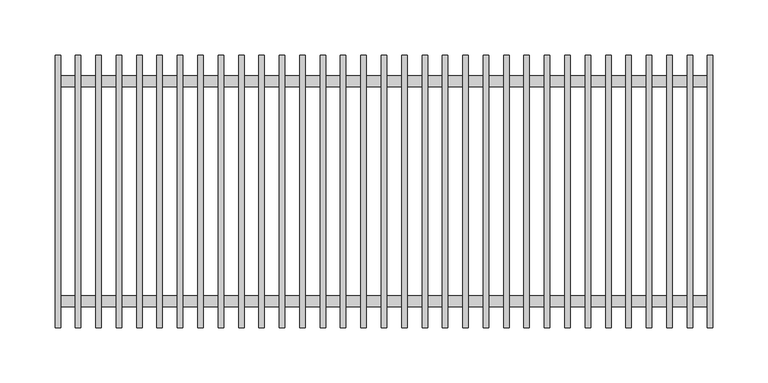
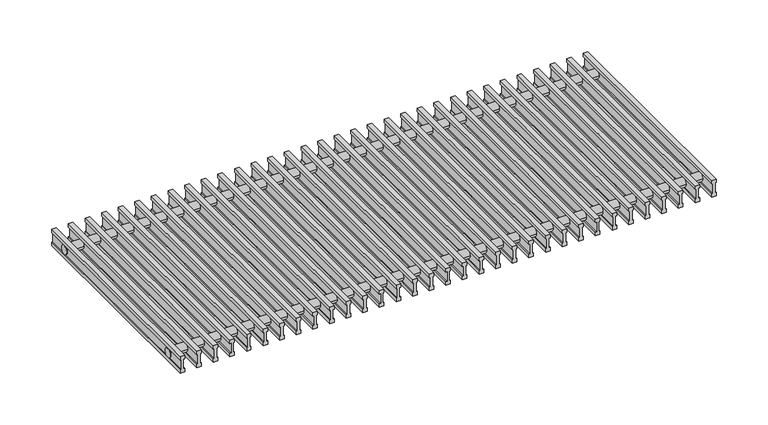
"""IFC4 building model written with IfcOpenShell, lengths in millimetres: proxy geometry, ♦ : РРА_Рулонная алюминиевая/ Белый RAL 9016."""

from ifc_helpers import new_model, si_unit, point, frame, frame_2d, origin, place, context, project, spatial, polyline, circle_curve, trimmed, segment, composite_curve, outline, extrude, source, transform, mapped, element, save


def mechanical_equipment_720d89d8(model_context):
    return source(origin(), model_context, "Body", "SweptSolid", [
        extrude(outline(polyline([(0.0, 580.28125), (0.0, 575.28125), (-3.86, 575.28125), (-3.86, 576.53125), (-15.44, 576.53125), (-15.44, 575.28125), (-19.3, 575.28125), (-19.3, 580.28125), (-15.44, 580.28125), (-15.44, 579.03125), (-3.86, 579.03125), (-3.86, 580.28125), (0.0, 580.28125)])), frame((0.0, -123.8, 0.0), z_axis=(0.0, 1.0, 0.0), x_axis=(0.0, 0.0, 1.0)), (0.0, 0.0, 1.0), 247.6),
        extrude(outline(polyline([(0.0, 561.7625), (0.0, 556.7625), (-3.86, 556.7625), (-3.86, 558.0125), (-15.44, 558.0125), (-15.44, 556.7625), (-19.3, 556.7625), (-19.3, 561.7625), (-15.44, 561.7625), (-15.44, 560.5125), (-3.86, 560.5125), (-3.86, 561.7625), (0.0, 561.7625)])), frame((0.0, -123.8, 0.0), z_axis=(0.0, 1.0, 0.0), x_axis=(0.0, 0.0, 1.0)), (0.0, 0.0, 1.0), 247.6),
        extrude(outline(polyline([(0.0, 543.24375), (0.0, 538.24375), (-3.86, 538.24375), (-3.86, 539.49375), (-15.44, 539.49375), (-15.44, 538.24375), (-19.3, 538.24375), (-19.3, 543.24375), (-15.44, 543.24375), (-15.44, 541.99375), (-3.86, 541.99375), (-3.86, 543.24375), (0.0, 543.24375)])), frame((0.0, -123.8, 0.0), z_axis=(0.0, 1.0, 0.0), x_axis=(0.0, 0.0, 1.0)), (0.0, 0.0, 1.0), 247.6),
        extrude(outline(polyline([(0.0, 524.725), (0.0, 519.725), (-3.86, 519.725), (-3.86, 520.975), (-15.44, 520.975), (-15.44, 519.725), (-19.3, 519.725), (-19.3, 524.725), (-15.44, 524.725), (-15.44, 523.475), (-3.86, 523.475), (-3.86, 524.725), (0.0, 524.725)])), frame((0.0, -123.8, 0.0), z_axis=(0.0, 1.0, 0.0), x_axis=(0.0, 0.0, 1.0)), (0.0, 0.0, 1.0), 247.6),
        extrude(outline(polyline([(0.0, 506.20625), (0.0, 501.20625), (-3.86, 501.20625), (-3.86, 502.45625), (-15.44, 502.45625), (-15.44, 501.20625), (-19.3, 501.20625), (-19.3, 506.20625), (-15.44, 506.20625), (-15.44, 504.95625), (-3.86, 504.95625), (-3.86, 506.20625), (0.0, 506.20625)])), frame((0.0, -123.8, 0.0), z_axis=(0.0, 1.0, 0.0), x_axis=(0.0, 0.0, 1.0)), (0.0, 0.0, 1.0), 247.6),
        extrude(outline(polyline([(0.0, 487.6875), (0.0, 482.6875), (-3.86, 482.6875), (-3.86, 483.9375), (-15.44, 483.9375), (-15.44, 482.6875), (-19.3, 482.6875), (-19.3, 487.6875), (-15.44, 487.6875), (-15.44, 486.4375), (-3.86, 486.4375), (-3.86, 487.6875), (0.0, 487.6875)])), frame((0.0, -123.8, 0.0), z_axis=(0.0, 1.0, 0.0), x_axis=(0.0, 0.0, 1.0)), (0.0, 0.0, 1.0), 247.6),
        extrude(outline(polyline([(0.0, 469.16875), (0.0, 464.16875), (-3.86, 464.16875), (-3.86, 465.41875), (-15.44, 465.41875), (-15.44, 464.16875), (-19.3, 464.16875), (-19.3, 469.16875), (-15.44, 469.16875), (-15.44, 467.91875), (-3.86, 467.91875), (-3.86, 469.16875), (0.0, 469.16875)])), frame((0.0, -123.8, 0.0), z_axis=(0.0, 1.0, 0.0), x_axis=(0.0, 0.0, 1.0)), (0.0, 0.0, 1.0), 247.6),
        extrude(outline(polyline([(0.0, 450.65), (0.0, 445.65), (-3.86, 445.65), (-3.86, 446.9), (-15.44, 446.9), (-15.44, 445.65), (-19.3, 445.65), (-19.3, 450.65), (-15.44, 450.65), (-15.44, 449.4), (-3.86, 449.4), (-3.86, 450.65), (0.0, 450.65)])), frame((0.0, -123.8, 0.0), z_axis=(0.0, 1.0, 0.0), x_axis=(0.0, 0.0, 1.0)), (0.0, 0.0, 1.0), 247.6),
        extrude(outline(polyline([(0.0, 432.13125), (0.0, 427.13125), (-3.86, 427.13125), (-3.86, 428.38125), (-15.44, 428.38125), (-15.44, 427.13125), (-19.3, 427.13125), (-19.3, 432.13125), (-15.44, 432.13125), (-15.44, 430.88125), (-3.86, 430.88125), (-3.86, 432.13125), (0.0, 432.13125)])), frame((0.0, -123.8, 0.0), z_axis=(0.0, 1.0, 0.0), x_axis=(0.0, 0.0, 1.0)), (0.0, 0.0, 1.0), 247.6),
        extrude(outline(polyline([(0.0, 413.6125), (0.0, 408.6125), (-3.86, 408.6125), (-3.86, 409.8625), (-15.44, 409.8625), (-15.44, 408.6125), (-19.3, 408.6125), (-19.3, 413.6125), (-15.44, 413.6125), (-15.44, 412.3625), (-3.86, 412.3625), (-3.86, 413.6125), (0.0, 413.6125)])), frame((0.0, -123.8, 0.0), z_axis=(0.0, 1.0, 0.0), x_axis=(0.0, 0.0, 1.0)), (0.0, 0.0, 1.0), 247.6),
        extrude(outline(polyline([(0.0, 395.09375), (0.0, 390.09375), (-3.86, 390.09375), (-3.86, 391.34375), (-15.44, 391.34375), (-15.44, 390.09375), (-19.3, 390.09375), (-19.3, 395.09375), (-15.44, 395.09375), (-15.44, 393.84375), (-3.86, 393.84375), (-3.86, 395.09375), (0.0, 395.09375)])), frame((0.0, -123.8, 0.0), z_axis=(0.0, 1.0, 0.0), x_axis=(0.0, 0.0, 1.0)), (0.0, 0.0, 1.0), 247.6),
        extrude(outline(polyline([(0.0, 376.575), (0.0, 371.575), (-3.86, 371.575), (-3.86, 372.825), (-15.44, 372.825), (-15.44, 371.575), (-19.3, 371.575), (-19.3, 376.575), (-15.44, 376.575), (-15.44, 375.325), (-3.86, 375.325), (-3.86, 376.575), (0.0, 376.575)])), frame((0.0, -123.8, 0.0), z_axis=(0.0, 1.0, 0.0), x_axis=(0.0, 0.0, 1.0)), (0.0, 0.0, 1.0), 247.6),
        extrude(outline(polyline([(0.0, 358.05625), (0.0, 353.05625), (-3.86, 353.05625), (-3.86, 354.30625), (-15.44, 354.30625), (-15.44, 353.05625), (-19.3, 353.05625), (-19.3, 358.05625), (-15.44, 358.05625), (-15.44, 356.80625), (-3.86, 356.80625), (-3.86, 358.05625), (0.0, 358.05625)])), frame((0.0, -123.8, 0.0), z_axis=(0.0, 1.0, 0.0), x_axis=(0.0, 0.0, 1.0)), (0.0, 0.0, 1.0), 247.6),
        extrude(outline(polyline([(0.0, 339.5375), (0.0, 334.5375), (-3.86, 334.5375), (-3.86, 335.7875), (-15.44, 335.7875), (-15.44, 334.5375), (-19.3, 334.5375), (-19.3, 339.5375), (-15.44, 339.5375), (-15.44, 338.2875), (-3.86, 338.2875), (-3.86, 339.5375), (0.0, 339.5375)])), frame((0.0, -123.8, 0.0), z_axis=(0.0, 1.0, 0.0), x_axis=(0.0, 0.0, 1.0)), (0.0, 0.0, 1.0), 247.6),
        extrude(outline(polyline([(0.0, 321.01875), (0.0, 316.01875), (-3.86, 316.01875), (-3.86, 317.26875), (-15.44, 317.26875), (-15.44, 316.01875), (-19.3, 316.01875), (-19.3, 321.01875), (-15.44, 321.01875), (-15.44, 319.76875), (-3.86, 319.76875), (-3.86, 321.01875), (0.0, 321.01875)])), frame((0.0, -123.8, 0.0), z_axis=(0.0, 1.0, 0.0), x_axis=(0.0, 0.0, 1.0)), (0.0, 0.0, 1.0), 247.6),
        extrude(outline(polyline([(0.0, 302.5), (0.0, 297.5), (-3.86, 297.5), (-3.86, 298.75), (-15.44, 298.75), (-15.44, 297.5), (-19.3, 297.5), (-19.3, 302.5), (-15.44, 302.5), (-15.44, 301.25), (-3.86, 301.25), (-3.86, 302.5), (0.0, 302.5)])), frame((0.0, -123.8, 0.0), z_axis=(0.0, 1.0, 0.0), x_axis=(0.0, 0.0, 1.0)), (0.0, 0.0, 1.0), 247.6),
        extrude(outline(polyline([(0.0, 283.98125), (0.0, 278.98125), (-3.86, 278.98125), (-3.86, 280.23125), (-15.44, 280.23125), (-15.44, 278.98125), (-19.3, 278.98125), (-19.3, 283.98125), (-15.44, 283.98125), (-15.44, 282.73125), (-3.86, 282.73125), (-3.86, 283.98125), (0.0, 283.98125)])), frame((0.0, -123.8, 0.0), z_axis=(0.0, 1.0, 0.0), x_axis=(0.0, 0.0, 1.0)), (0.0, 0.0, 1.0), 247.6),
        extrude(outline(polyline([(0.0, 265.4625), (0.0, 260.4625), (-3.86, 260.4625), (-3.86, 261.7125), (-15.44, 261.7125), (-15.44, 260.4625), (-19.3, 260.4625), (-19.3, 265.4625), (-15.44, 265.4625), (-15.44, 264.2125), (-3.86, 264.2125), (-3.86, 265.4625), (0.0, 265.4625)])), frame((0.0, -123.8, 0.0), z_axis=(0.0, 1.0, 0.0), x_axis=(0.0, 0.0, 1.0)), (0.0, 0.0, 1.0), 247.6),
        extrude(outline(polyline([(0.0, 246.94375), (0.0, 241.94375), (-3.86, 241.94375), (-3.86, 243.19375), (-15.44, 243.19375), (-15.44, 241.94375), (-19.3, 241.94375), (-19.3, 246.94375), (-15.44, 246.94375), (-15.44, 245.69375), (-3.86, 245.69375), (-3.86, 246.94375), (0.0, 246.94375)])), frame((0.0, -123.8, 0.0), z_axis=(0.0, 1.0, 0.0), x_axis=(0.0, 0.0, 1.0)), (0.0, 0.0, 1.0), 247.6),
        extrude(outline(polyline([(0.0, 228.425), (0.0, 223.425), (-3.86, 223.425), (-3.86, 224.675), (-15.44, 224.675), (-15.44, 223.425), (-19.3, 223.425), (-19.3, 228.425), (-15.44, 228.425), (-15.44, 227.175), (-3.86, 227.175), (-3.86, 228.425), (0.0, 228.425)])), frame((0.0, -123.8, 0.0), z_axis=(0.0, 1.0, 0.0), x_axis=(0.0, 0.0, 1.0)), (0.0, 0.0, 1.0), 247.6),
        extrude(outline(polyline([(0.0, 209.90625), (0.0, 204.90625), (-3.86, 204.90625), (-3.86, 206.15625), (-15.44, 206.15625), (-15.44, 204.90625), (-19.3, 204.90625), (-19.3, 209.90625), (-15.44, 209.90625), (-15.44, 208.65625), (-3.86, 208.65625), (-3.86, 209.90625), (0.0, 209.90625)])), frame((0.0, -123.8, 0.0), z_axis=(0.0, 1.0, 0.0), x_axis=(0.0, 0.0, 1.0)), (0.0, 0.0, 1.0), 247.6),
        extrude(outline(polyline([(0.0, 191.3875), (0.0, 186.3875), (-3.86, 186.3875), (-3.86, 187.6375), (-15.44, 187.6375), (-15.44, 186.3875), (-19.3, 186.3875), (-19.3, 191.3875), (-15.44, 191.3875), (-15.44, 190.1375), (-3.86, 190.1375), (-3.86, 191.3875), (0.0, 191.3875)])), frame((0.0, -123.8, 0.0), z_axis=(0.0, 1.0, 0.0), x_axis=(0.0, 0.0, 1.0)), (0.0, 0.0, 1.0), 247.6),
        extrude(outline(polyline([(0.0, 172.86875), (0.0, 167.86875), (-3.86, 167.86875), (-3.86, 169.11875), (-15.44, 169.11875), (-15.44, 167.86875), (-19.3, 167.86875), (-19.3, 172.86875), (-15.44, 172.86875), (-15.44, 171.61875), (-3.86, 171.61875), (-3.86, 172.86875), (0.0, 172.86875)])), frame((0.0, -123.8, 0.0), z_axis=(0.0, 1.0, 0.0), x_axis=(0.0, 0.0, 1.0)), (0.0, 0.0, 1.0), 247.6),
        extrude(outline(polyline([(0.0, 154.35), (0.0, 149.35), (-3.86, 149.35), (-3.86, 150.6), (-15.44, 150.6), (-15.44, 149.35), (-19.3, 149.35), (-19.3, 154.35), (-15.44, 154.35), (-15.44, 153.1), (-3.86, 153.1), (-3.86, 154.35), (0.0, 154.35)])), frame((0.0, -123.8, 0.0), z_axis=(0.0, 1.0, 0.0), x_axis=(0.0, 0.0, 1.0)), (0.0, 0.0, 1.0), 247.6),
        extrude(outline(polyline([(0.0, 135.83125), (0.0, 130.83125), (-3.86, 130.83125), (-3.86, 132.08125), (-15.44, 132.08125), (-15.44, 130.83125), (-19.3, 130.83125), (-19.3, 135.83125), (-15.44, 135.83125), (-15.44, 134.58125), (-3.86, 134.58125), (-3.86, 135.83125), (0.0, 135.83125)])), frame((0.0, -123.8, 0.0), z_axis=(0.0, 1.0, 0.0), x_axis=(0.0, 0.0, 1.0)), (0.0, 0.0, 1.0), 247.6),
        extrude(outline(polyline([(0.0, 117.3125), (0.0, 112.3125), (-3.86, 112.3125), (-3.86, 113.5625), (-15.44, 113.5625), (-15.44, 112.3125), (-19.3, 112.3125), (-19.3, 117.3125), (-15.44, 117.3125), (-15.44, 116.0625), (-3.86, 116.0625), (-3.86, 117.3125), (0.0, 117.3125)])), frame((0.0, -123.8, 0.0), z_axis=(0.0, 1.0, 0.0), x_axis=(0.0, 0.0, 1.0)), (0.0, 0.0, 1.0), 247.6),
        extrude(outline(polyline([(0.0, 98.79375), (0.0, 93.79375), (-3.86, 93.79375), (-3.86, 95.04375), (-15.44, 95.04375), (-15.44, 93.79375), (-19.3, 93.79375), (-19.3, 98.79375), (-15.44, 98.79375), (-15.44, 97.54375), (-3.86, 97.54375), (-3.86, 98.79375), (0.0, 98.79375)])), frame((0.0, -123.8, 0.0), z_axis=(0.0, 1.0, 0.0), x_axis=(0.0, 0.0, 1.0)), (0.0, 0.0, 1.0), 247.6),
        extrude(outline(polyline([(0.0, 80.275), (0.0, 75.275), (-3.86, 75.275), (-3.86, 76.525), (-15.44, 76.525), (-15.44, 75.275), (-19.3, 75.275), (-19.3, 80.275), (-15.44, 80.275), (-15.44, 79.025), (-3.86, 79.025), (-3.86, 80.275), (0.0, 80.275)])), frame((0.0, -123.8, 0.0), z_axis=(0.0, 1.0, 0.0), x_axis=(0.0, 0.0, 1.0)), (0.0, 0.0, 1.0), 247.6),
        extrude(outline(polyline([(0.0, 61.75625), (0.0, 56.75625), (-3.86, 56.75625), (-3.86, 58.00625), (-15.44, 58.00625), (-15.44, 56.75625), (-19.3, 56.75625), (-19.3, 61.75625), (-15.44, 61.75625), (-15.44, 60.50625), (-3.86, 60.50625), (-3.86, 61.75625), (0.0, 61.75625)])), frame((0.0, -123.8, 0.0), z_axis=(0.0, 1.0, 0.0), x_axis=(0.0, 0.0, 1.0)), (0.0, 0.0, 1.0), 247.6),
        extrude(outline(polyline([(0.0, 43.2375), (0.0, 38.2375), (-3.86, 38.2375), (-3.86, 39.4875), (-15.44, 39.4875), (-15.44, 38.2375), (-19.3, 38.2375), (-19.3, 43.2375), (-15.44, 43.2375), (-15.44, 41.9875), (-3.86, 41.9875), (-3.86, 43.2375), (0.0, 43.2375)])), frame((0.0, -123.8, 0.0), z_axis=(0.0, 1.0, 0.0), x_axis=(0.0, 0.0, 1.0)), (0.0, 0.0, 1.0), 247.6),
        extrude(outline(polyline([(0.0, 24.71875), (0.0, 19.71875), (-3.86, 19.71875), (-3.86, 20.96875), (-15.44, 20.96875), (-15.44, 19.71875), (-19.3, 19.71875), (-19.3, 24.71875), (-15.44, 24.71875), (-15.44, 23.46875), (-3.86, 23.46875), (-3.86, 24.71875), (0.0, 24.71875)])), frame((0.0, -123.8, 0.0), z_axis=(0.0, 1.0, 0.0), x_axis=(0.0, 0.0, 1.0)), (0.0, 0.0, 1.0), 247.6),
        extrude(outline(polyline([(0.0, 598.8), (0.0, 593.8), (-3.86, 593.8), (-3.86, 595.05), (-15.44, 595.05), (-15.44, 593.8), (-19.3, 593.8), (-19.3, 598.8), (-15.44, 598.8), (-15.44, 597.55), (-3.86, 597.55), (-3.86, 598.8), (0.0, 598.8)])), frame((0.0, -123.8, 0.0), z_axis=(0.0, 1.0, 0.0), x_axis=(0.0, 0.0, 1.0)), (0.0, 0.0, 1.0), 247.6),
        extrude(outline(polyline([(0.0, 6.2), (0.0, 1.2), (-3.86, 1.2), (-3.86, 2.45), (-15.44, 2.45), (-15.44, 1.2), (-19.3, 1.2), (-19.3, 6.2), (-15.44, 6.2), (-15.44, 4.95), (-3.86, 4.95), (-3.86, 6.2), (0.0, 6.2)])), frame((0.0, -123.8, 0.0), z_axis=(0.0, 1.0, 0.0), x_axis=(0.0, 0.0, 1.0)), (0.0, 0.0, 1.0), 247.6),
        extrude(outline(composite_curve([segment(trimmed(circle_curve(frame_2d((100.0, -9.64)), 5.0), [point((95.0, -9.64))], [point((105.0, -9.64))], False, "CARTESIAN"), True, "CONTINUOUS"), segment(trimmed(circle_curve(frame_2d((100.0, -9.64)), 5.0), [point((105.0, -9.64))], [point((95.0, -9.64))], False, "CARTESIAN"), True, "CONTINUOUS")], self_intersect=False)), frame((1.2, 0.0, 0.0), z_axis=(1.0, 0.0, 0.0), x_axis=(0.0, 1.0, 0.0)), (0.0, 0.0, 1.0), 597.6),
        extrude(outline(composite_curve([segment(trimmed(circle_curve(frame_2d((-100.0, -9.64)), 5.0), [point((-105.0, -9.64))], [point((-95.0, -9.64))], False, "CARTESIAN"), True, "CONTINUOUS"), segment(trimmed(circle_curve(frame_2d((-100.0, -9.64)), 5.0), [point((-95.0, -9.64))], [point((-105.0, -9.64))], False, "CARTESIAN"), True, "CONTINUOUS")], self_intersect=False)), frame((1.2, 0.0, 0.0), z_axis=(1.0, 0.0, 0.0), x_axis=(0.0, 1.0, 0.0)), (0.0, 0.0, 1.0), 597.6),
    ])


if __name__ == "__main__":
    model = new_model("IFC4")
    model_context = context("Model", 3, world=origin())
    ifc_project = project(units=[si_unit("LENGTHUNIT", "METRE", prefix="MILLI")], contexts=[model_context])
    site = spatial("IfcSite", under=ifc_project)
    building = spatial("IfcBuilding", under=site)
    placement = place(None, origin())
    mechanical_equipment_shape = mechanical_equipment_720d89d8(model_context)
    element("IfcBuildingElementProxy", 1, Name="♦ : РРА_Рулонная алюминиевая/ Белый RAL 9016", ObjectType="♦ : РРА_Рулонная алюминиевая/ Белый RAL 9016", at=placement, inside=building, context=model_context, shape_type="MappedRepresentation", body=[
        mapped(mechanical_equipment_shape, transform((0.0, 0.0, 0.0), x_axis=(1.0, 0.0, 0.0), y_axis=(0.0, 1.0, 0.0), z_axis=(0.0, 0.0, 1.0))),
    ])
    save(model, "model.ifc")
